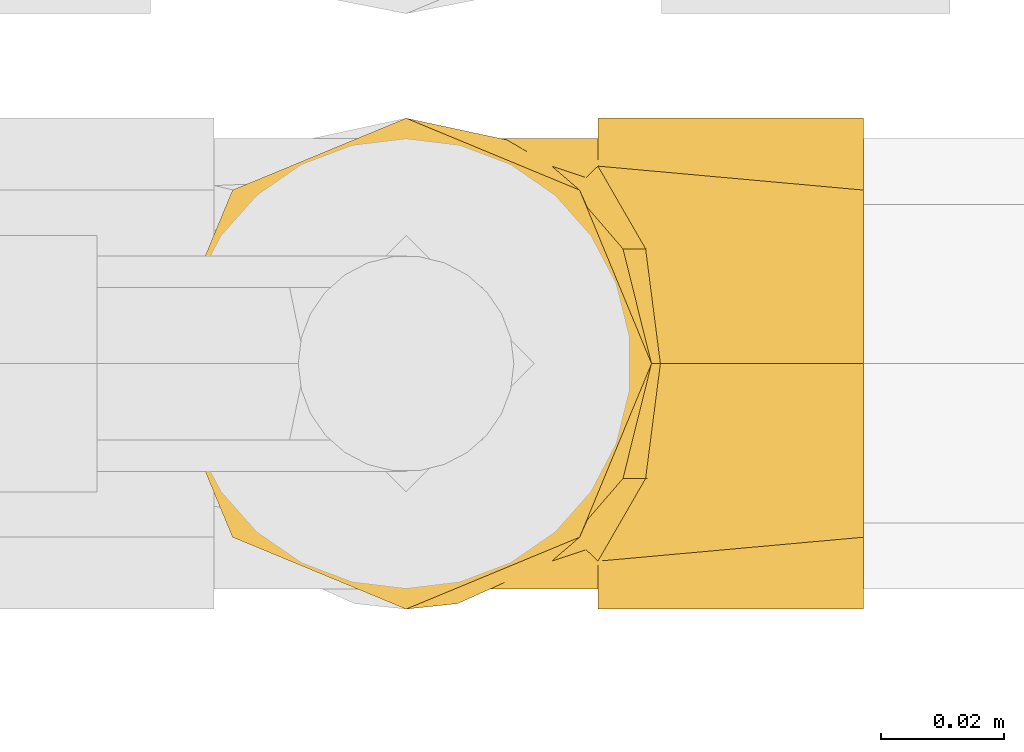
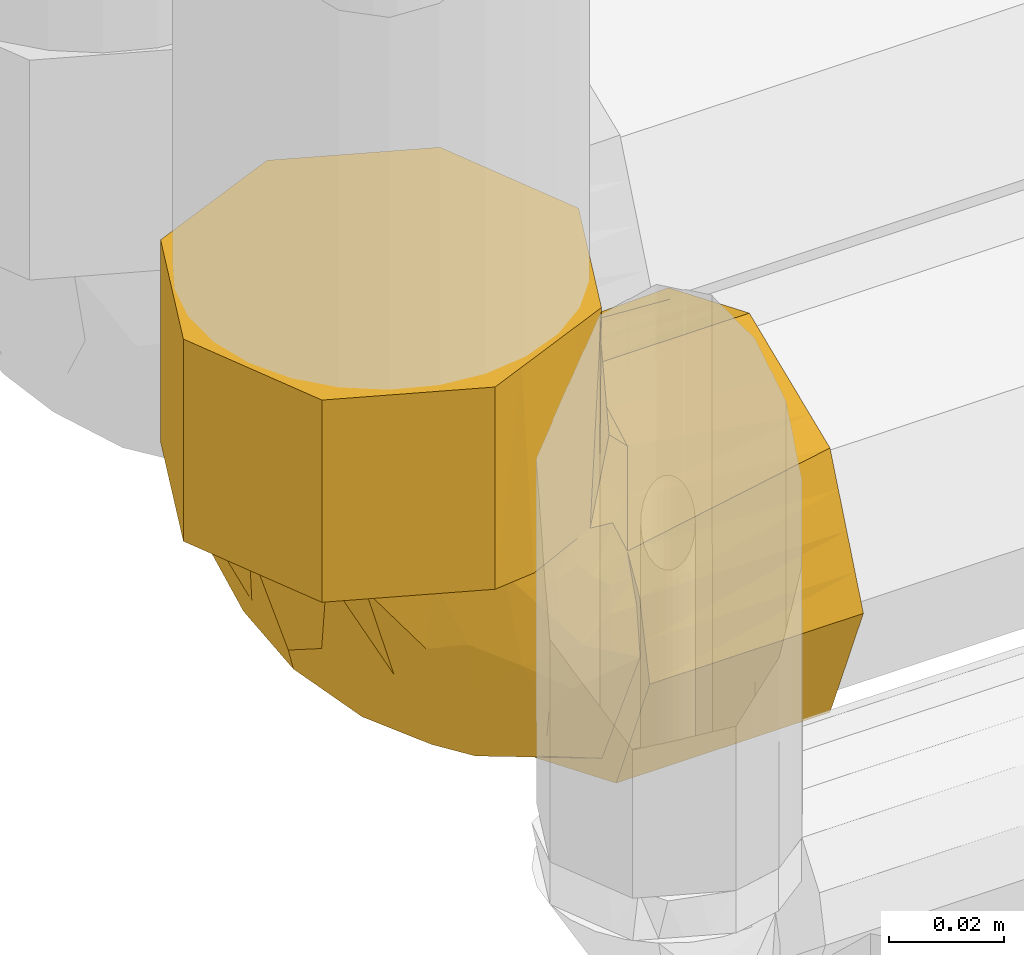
# One storey, part 179 of 652: 1 covering.
"""IFC2X3 building model written with IfcOpenShell, lengths in millimetres."""

from ifc_helpers import new_model, entity, si_unit, converted_unit, direction, frame, origin, place, context, subcontext, project, spatial, faceted_brep, material, type_object, element, save


model = new_model("IFC2X3")

# Units and contexts
model_context = context("Model", 3, precision=0.01, world=frame((0.0, 0.0, 308426.39999999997)), true_north=direction((6.123233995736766e-17, 1.0)))
plan_context = context("Plan", 3, precision=0.01, world=frame((0.0, 0.0, 308426.39999999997)), true_north=direction((6.123233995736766e-17, 1.0)))
body_context = subcontext(model_context, "Body", "Model", "MODEL_VIEW")
ifc_project = project(units=[si_unit("LENGTHUNIT", "METRE", prefix="MILLI"), si_unit("AREAUNIT", "SQUARE_METRE"), si_unit("VOLUMEUNIT", "CUBIC_METRE"), converted_unit("PLANEANGLEUNIT", "DEGREE", entity("IfcPlaneAngleMeasure", 0.017453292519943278), si_unit("PLANEANGLEUNIT", "RADIAN"), dimensions=[0, 0, 0, 0, 0, 0, 0])], contexts=[model_context, plan_context])

# Site, building, storey
site_placement = place(None, origin())
site = spatial("IfcSite", under=ifc_project, at=site_placement, Name="Default", CompositionType="ELEMENT")
building_placement = place(site_placement, origin())
building = spatial("IfcBuilding", under=site, at=building_placement, CompositionType="ELEMENT")
storey_placement = place(building_placement, frame((0.0, 0.0, 1730.6999999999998)))
storey = spatial("IfcBuildingStorey", under=building, at=storey_placement, Name="EG_Produktion_FFB", CompositionType="ELEMENT", Elevation=1730.6999999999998)

# Covering
ifc_material = material(Name="Dämmung - Armaflex-Schlauch")
covering_type = type_object("IfcCoveringType", Name="Rohrdämmung außen:Armaflex-Schlauch", PredefinedType="INSULATION")
covering_placement = place(storey_placement, frame((69458.64672776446, 40733.64672776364, 2639.0371746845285)))
element("IfcCovering", 1, at=covering_placement, inside=storey, type_object=covering_type, material=ifc_material, Name="Rohrdämmung außen:Armaflex-Schlauch", ObjectType="Rohrdämmung außen:Armaflex-Schlauch", PredefinedType="INSULATION", context=body_context, shape_type="Brep", body=[
    faceted_brep([(72.4317722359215, 6.083537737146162, -60.14407617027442), (72.43177223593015, 5.617026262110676, -64.13185283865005), (72.4317722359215, 4.890772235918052, -70.33992920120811), (72.4317722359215, 8.3318644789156, -77.97579246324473), (72.43177223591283, 11.772956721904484, -85.61165572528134), (72.4317722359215, 14.99997398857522, -92.77248166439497), (72.4317722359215, 18.22699125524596, -99.93330760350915), (72.43177223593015, 29.790131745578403, -104.18429126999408), (72.4317722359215, 41.35327223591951, -108.43527493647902), (72.43177223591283, 48.56469745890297, -104.78880055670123), (72.4317722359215, 55.776122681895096, -101.14232617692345), (72.43177223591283, 62.98754790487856, -97.49585179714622), (72.4317722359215, 70.19897312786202, -93.84937741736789), (72.4317722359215, 72.58148097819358, -86.49570507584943), (72.43177223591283, 75.19862660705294, -78.41781713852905), (72.4317722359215, 77.81577223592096, -70.33992920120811), (72.4317722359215, 77.08951820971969, -64.13185283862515), (72.4317722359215, 76.62300673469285, -60.14407617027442), (72.4317722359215, 74.98470757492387, -55.312279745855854), (72.4317722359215, 73.34640841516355, -50.4804833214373), (72.4317722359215, 76.78343970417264, -58.09788865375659), (72.4317722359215, 80.22047099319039, -65.71529398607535), (72.4317722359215, 81.11127223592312, -74.08425000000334), (72.43177223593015, 77.7993156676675, -82.08002046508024), (72.4317722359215, 75.28884793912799, -88.14082570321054), (72.4317722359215, 72.37763579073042, -95.16911355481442), (72.4317722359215, 69.46642364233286, -102.1974014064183), (72.4317722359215, 62.43813579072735, -105.10861355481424), (72.4317722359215, 55.409847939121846, -108.01982570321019), (72.4317722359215, 48.38156008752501, -110.93103785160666), (72.4317722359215, 41.35327223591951, -113.84225000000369), (72.4317722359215, 33.35750170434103, -110.53029340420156), (72.4317722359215, 27.29669653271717, -108.01982570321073), (72.4317722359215, 20.26840868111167, -105.10861355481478), (72.4317722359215, 13.240120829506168, -102.1974014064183), (72.4317722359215, 10.3289086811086, -95.16911355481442), (72.4317722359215, 7.417696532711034, -88.14082570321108), (72.43177223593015, 4.907228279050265, -82.08001919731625), (72.4317722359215, 1.5952722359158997, -74.08425000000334), (72.4317722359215, 3.3544632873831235, -65.90823846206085), (72.4317722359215, 5.113654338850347, -57.73222692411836), (72.4317722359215, 9.36013605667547, -50.4804833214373), (72.4317722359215, 7.721836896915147, -55.312279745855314), (115.43752223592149, 69.46642364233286, -45.971098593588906), (115.43752223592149, 62.43813579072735, -43.059886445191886), (115.43752223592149, 55.409847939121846, -40.14867429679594), (115.43752223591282, 49.349042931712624, -37.638206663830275), (115.43752223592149, 41.35327223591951, -34.32625000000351), (115.43752223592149, 33.357503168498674, -37.63820598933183), (115.43752223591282, 27.296696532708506, -40.14867429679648), (115.43752223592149, 20.26840868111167, -43.059886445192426), (115.43752223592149, 13.240120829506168, -45.971098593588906), (115.43752223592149, 10.3289086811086, -52.99938644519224), (115.43752223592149, 7.417696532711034, -60.02767429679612), (115.43752223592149, 4.506484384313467, -67.05596214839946), (115.43752223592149, 1.5952722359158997, -74.08425000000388), (115.43752223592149, 4.506484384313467, -81.11253785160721), (115.43752223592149, 7.417696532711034, -88.14082570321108), (115.43752223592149, 10.3289086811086, -95.16911355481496), (115.43752223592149, 13.240120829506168, -102.1974014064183), (115.43752223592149, 20.26840868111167, -105.10861355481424), (115.43752223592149, 27.29669653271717, -108.01982570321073), (115.43752223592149, 34.32498438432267, -110.93103785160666), (115.43752223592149, 41.35327223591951, -113.84225000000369), (115.43752223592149, 48.38156008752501, -110.93103785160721), (115.43752223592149, 55.409847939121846, -108.01982570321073), (115.43752223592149, 62.43813579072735, -105.10861355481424), (115.43752223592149, 69.46642364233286, -102.1974014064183), (115.43752223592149, 74.48735878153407, -90.07579169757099), (115.43752223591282, 77.7993155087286, -82.08002084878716), (115.43752223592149, 81.11127223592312, -74.08425000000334), (115.43752223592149, 78.20006008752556, -67.05596214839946), (115.43752223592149, 75.28884793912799, -60.02767429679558), (115.43752223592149, 72.37763579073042, -52.9993864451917), (76.2943830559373, 66.64936056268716, -44.712689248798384), (82.55017689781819, 41.35327223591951, -34.32625000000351), (81.35358538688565, 50.65279247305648, -36.63557258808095), (80.15699387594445, 59.952312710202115, -38.94489517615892), (80.75528963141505, 55.3025525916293, -37.790233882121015), (76.2943830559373, 16.057183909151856, -44.712689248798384), (81.35358538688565, 32.05375199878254, -36.63557258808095), (80.15699387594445, 22.754231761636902, -38.94489517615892), (81.9957964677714, 37.04480775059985, -35.39615835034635), (41.35327223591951, 1.5952722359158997, -43.0057500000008), (33.35750183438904, 4.907228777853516, -43.00575000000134), (27.29669653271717, 7.417696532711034, -43.0057500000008), (20.26840868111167, 10.3289086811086, -43.0057500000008), (13.240120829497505, 13.240120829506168, -43.0057500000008), (10.3289086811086, 20.26840868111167, -43.00575000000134), (7.417696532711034, 27.29669653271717, -43.0057500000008), (4.907228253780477, 33.357503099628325, -43.00575000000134), (1.5952722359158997, 41.35327223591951, -43.0057500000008), (4.9072286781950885, 49.34904239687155, -43.0057500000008), (7.417696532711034, 55.409847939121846, -43.0057500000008), (10.3289086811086, 62.43813579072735, -43.0057500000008), (13.240120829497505, 69.46642364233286, -43.0057500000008), (20.26840868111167, 72.37763579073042, -43.0057500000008), (27.29669653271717, 75.28884793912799, -43.0057500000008), (34.32498438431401, 78.20006008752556, -43.0057500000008), (41.35327223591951, 81.11127223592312, -43.0057500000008), (49.52928377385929, 79.3520811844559, -43.0057500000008), (57.70529531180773, 77.59289013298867, -43.0057500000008), (64.95703891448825, 73.34640841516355, -43.0057500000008), (60.125242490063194, 74.98470757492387, -43.0057500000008), (55.2934460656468, 76.62300673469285, -43.0057500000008), (51.30567010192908, 77.08951812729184, -43.00575000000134), (48.20163156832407, 77.45264518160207, -43.0057500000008), (45.09759303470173, 77.81577223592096, -43.0057500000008), (37.69714258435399, 74.47922639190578, -43.0057500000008), (30.296692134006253, 71.14268054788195, -43.0057500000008), (22.89624168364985, 67.80613470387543, -43.0057500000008), (15.495791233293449, 64.4695888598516, -43.0057500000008), (13.372405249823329, 58.69050970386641, -43.0057500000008), (11.249019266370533, 52.91143054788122, -43.0057500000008), (7.002247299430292, 41.35327223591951, -43.0057500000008), (10.651622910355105, 34.139683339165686, -43.00575000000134), (14.30099852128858, 26.926094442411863, -43.00575000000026), (17.95037413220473, 19.712505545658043, -43.0057500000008), (21.599749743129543, 12.498916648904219, -43.0057500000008), (27.474210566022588, 10.596880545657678, -43.0057500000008), (33.34867138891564, 8.694844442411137, -43.0057500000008), (45.09759303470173, 4.890772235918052, -43.0057500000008), (48.201631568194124, 5.253899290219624, -43.00575000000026), (51.30567010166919, 5.617026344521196, -43.00575000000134), (55.2934460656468, 6.083537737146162, -43.0057500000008), (60.125242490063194, 7.721836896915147, -43.0057500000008), (64.95703891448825, 9.36013605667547, -43.0057500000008), (57.3396335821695, 5.923104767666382, -43.0057500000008), (49.722228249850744, 2.486073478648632, -43.0057500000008), (34.32498438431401, 78.20006008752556, 0.0), (27.296696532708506, 75.28884793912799, 0.0), (20.26840868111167, 72.37763579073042, 0.0), (13.240120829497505, 69.46642364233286, 0.0), (8.21918556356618, 57.34481362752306, 0.0), (4.90722889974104, 49.349042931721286, 0.0), (1.5952722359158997, 41.35327223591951, 0.0), (4.506484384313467, 34.32498438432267, 0.0), (7.417696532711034, 27.29669653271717, 0.0), (10.3289086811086, 20.26840868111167, 0.0), (13.240120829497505, 13.240120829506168, 0.0), (20.26840868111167, 10.3289086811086, 0.0), (27.29669653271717, 7.417696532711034, 0.0), (34.32498438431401, 4.506484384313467, 0.0), (41.35327223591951, 1.5952722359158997, 0.0), (48.38156008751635, 4.506484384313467, 0.0), (55.409847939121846, 7.417696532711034, 0.0), (62.43813579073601, 10.3289086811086, 0.0), (69.46642364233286, 13.240120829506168, 0.0), (72.37763579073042, 20.26840868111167, 0.0), (75.28884793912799, 27.29669653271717, 0.0), (77.79931550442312, 33.35750137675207, 0.0), (81.11127223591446, 41.35327223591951, 0.0), (77.79931623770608, 49.34904132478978, 0.0), (75.28884793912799, 55.409847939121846, 0.0), (72.37763579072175, 62.43813579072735, 0.0), (69.46642364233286, 69.46642364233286, 0.0), (62.43813579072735, 72.37763579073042, 0.0), (55.409847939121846, 75.28884793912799, 0.0), (49.34904308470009, 77.7993155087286, 0.0), (41.35327223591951, 81.11127223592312, 0.0), (81.11127223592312, 41.35327223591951, -32.88734533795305), (78.80194964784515, 50.65279247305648, -34.08393684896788), (76.49262705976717, 59.95231271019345, -35.28052835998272), (78.97145557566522, 49.97020104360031, -33.99610617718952), (70.72483298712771, 66.6493605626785, -39.14313917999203), (70.72483298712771, 16.057183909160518, -39.14313917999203), (78.80194964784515, 32.05375199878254, -34.08393684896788), (76.49262705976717, 22.754231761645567, -35.28052835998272), (78.97145557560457, 32.736343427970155, -33.99610617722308), (80.04136390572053, 37.04480783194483, -33.44172575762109), (28.191105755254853, 70.58224481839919, -58.166290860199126), (56.173355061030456, 70.83707710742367, -86.24367512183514), (50.64377400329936, 74.32798861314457, -75.43570574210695), (60.9929039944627, 77.81577223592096, -63.77170858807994), (57.90061631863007, 77.00215070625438, -71.00962303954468), (45.897858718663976, 76.88875438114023, -60.33082901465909), (36.82001052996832, 68.42118911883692, -74.69227230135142), (51.80207039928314, 65.41959260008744, -90.57284197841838), (23.73842277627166, 41.35327223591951, -77.92193606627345), (18.34308673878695, 49.419286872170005, -68.63591410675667), (34.517692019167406, 49.772731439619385, -87.88495600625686), (60.25843487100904, 41.35327223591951, -100.80694021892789), (53.7329200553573, 50.77782717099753, -100.52515800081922), (33.524488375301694, 62.1795598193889, -79.21479866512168), (46.92212877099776, 77.81577223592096, -45.38936071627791), (48.746664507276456, 77.81577223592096, -47.77297143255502), (52.395735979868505, 77.81577223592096, -52.54019286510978), (56.69431998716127, 77.81577223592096, -58.15595072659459), (23.185833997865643, 65.51319346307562, -60.49415737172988), (44.192898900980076, 59.20066225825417, -90.8781652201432), (58.02641308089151, 60.21657287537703, -98.10654117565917), (22.770111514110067, 58.18811212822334, -69.60139271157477), (30.82495311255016, 55.84987819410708, -81.4946354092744), (15.370335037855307, 41.35327223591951, -60.463843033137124), (14.815761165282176, 41.35327223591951, -59.306852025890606), (48.08509750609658, 41.35327223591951, -93.17860550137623), (42.12089419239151, 41.35327223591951, -89.44118018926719), (35.91176014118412, 41.35327223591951, -85.55027078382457), (14.93671691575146, 55.74445137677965, -57.68461622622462), (36.83398515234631, 73.7993394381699, -62.34563514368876), (57.276333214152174, 41.35327223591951, -98.93822756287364), (67.17975226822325, 77.81577223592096, -67.32420901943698), (66.82609985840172, 77.16648559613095, -59.54771910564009), (67.53281751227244, 75.95462844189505, -54.28952280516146), (81.80380630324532, 41.35327223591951, -33.633715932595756), (63.97836554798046, 76.0357200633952, -51.459156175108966), (70.52863875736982, 71.49570768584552, -44.90888377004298), (61.14799970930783, 75.95462822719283, -47.90470403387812), (55.91882115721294, 77.15152320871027, -48.51664173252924), (66.82609985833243, 5.540058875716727, -59.54771910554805), (67.17975226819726, 4.890772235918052, -67.3242090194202), (70.52863885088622, 11.210837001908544, -44.90888341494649), (63.97836630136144, 6.670824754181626, -51.459155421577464), (67.53281753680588, 6.7519160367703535, -54.28952279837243), (56.69431998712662, 4.890772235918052, -58.15595072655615), (61.14799971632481, 6.7519162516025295, -47.904704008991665), (55.9188211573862, 5.555021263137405, -48.51664173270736), (48.74666450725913, 4.890772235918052, -47.77297143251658), (60.9929039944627, 4.890772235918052, -63.7717085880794), (46.92212877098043, 4.890772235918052, -45.38936071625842), (52.395735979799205, 4.890772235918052, -52.54019286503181), (55.825659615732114, 7.90055709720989, -77.88884430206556), (57.28959429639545, 11.144292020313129, -85.68390575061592), (39.02450620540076, 6.907352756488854, -57.202126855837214), (32.063467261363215, 31.821832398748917, -85.21783817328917), (35.5666121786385, 16.763579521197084, -76.99963686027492), (40.99370372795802, 9.117077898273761, -68.28685011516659), (28.53498924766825, 14.598856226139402, -64.58632217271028), (49.338891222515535, 5.892051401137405, -64.72447259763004), (59.44894022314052, 5.886693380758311, -73.03938972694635), (47.627260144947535, 15.338625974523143, -85.6554499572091), (28.791268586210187, 22.521459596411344, -75.83338581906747), (17.084732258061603, 31.617498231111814, -65.65295551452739), (18.64017595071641, 22.69544496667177, -60.45142062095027), (32.102457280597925, 9.61944594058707, -57.306708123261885), (50.634728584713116, 24.56861790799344, -95.65270419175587), (40.67615020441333, 21.067876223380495, -86.33050767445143), (59.4422784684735, 16.734184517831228, -94.01862068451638), (46.78958221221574, 33.08278710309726, -97.03201021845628)], [[[0, 1, 2, 3, 4, 5, 6, 7, 8, 9, 10, 11, 12, 13, 14, 15, 16, 17, 18, 19, 20, 21, 22, 23, 24, 25, 26, 27, 28, 29, 30, 31, 32, 33, 34, 35, 36, 37, 38, 39, 40, 41, 42]], [[43, 44, 45, 46, 47, 48, 49, 50, 51, 52, 53, 54, 55, 56, 57, 58, 59, 60, 61, 62, 63, 64, 65, 66, 67, 68, 69, 70, 71, 72, 73]], [[44, 43, 74]], [[75, 47, 46]], [[76, 75, 46]], [[45, 77, 78, 76]], [[44, 74, 77]], [[72, 20, 73]], [[71, 21, 72]], [[43, 19, 74]], [[77, 45, 44]], [[72, 21, 20]], [[71, 22, 21]], [[45, 76, 46]], [[71, 70, 22]], [[73, 20, 19]], [[19, 43, 73]], [[23, 22, 70, 69, 68, 67, 26, 25, 24]], [[26, 67, 66, 65, 64, 63, 30, 29, 28, 27]], [[38, 37, 36, 35, 34, 59, 58, 57, 56, 55]], [[30, 63, 62, 61, 60, 59, 34, 33, 32, 31]], [[53, 40, 39]], [[50, 79, 51]], [[39, 54, 53]], [[41, 52, 51]], [[40, 52, 41]], [[80, 49, 48]], [[49, 80, 81]], [[55, 54, 38]], [[48, 75, 82, 80]], [[38, 54, 39]], [[79, 50, 81]], [[52, 40, 53]], [[48, 47, 75]], [[50, 49, 81]], [[79, 41, 51]], [[83, 84, 85, 86, 87, 88, 89, 90, 91, 92, 93, 94, 95, 96, 97, 98, 99, 100, 101, 102, 103, 104, 105, 106, 107, 108, 109, 110, 111, 112, 113, 114, 115, 116, 117, 118, 119, 120, 121, 122, 123, 124, 125, 126, 127, 128]], [[129, 130, 131, 132, 133, 134, 135, 136, 137, 138, 139, 140, 141, 142, 143, 144, 145, 146, 147, 148, 149, 150, 151, 152, 153, 154, 155, 156, 157, 158, 159]], [[135, 134, 133, 132, 95, 94, 93, 92, 91]], [[95, 132, 131, 130, 129, 159, 99, 98, 97, 96]], [[159, 158, 157, 100]], [[101, 156, 102]], [[99, 159, 100]], [[101, 100, 157]], [[152, 151, 160]], [[102, 156, 155]], [[153, 161, 162]], [[161, 153, 152]], [[152, 160, 163, 161]], [[154, 164, 155]], [[164, 154, 162]], [[156, 101, 157]], [[154, 153, 162]], [[164, 102, 155]], [[148, 147, 165]], [[149, 166, 150]], [[166, 149, 167]], [[160, 151, 150]], [[148, 165, 167]], [[145, 127, 146]], [[144, 128, 145]], [[147, 126, 165]], [[167, 149, 148]], [[145, 128, 127]], [[144, 83, 128]], [[150, 166, 168, 169, 160]], [[144, 143, 83]], [[146, 127, 126]], [[126, 147, 146]], [[91, 90, 89, 88, 87, 139, 138, 137, 136, 135]], [[141, 140, 139, 87, 86, 85, 84, 83, 143, 142]], [[109, 170, 110]], [[13, 171, 172]], [[14, 13, 172]], [[173, 174, 175]], [[176, 171, 177]], [[15, 14, 174]], [[178, 179, 180]], [[9, 181, 182]], [[172, 175, 174]], [[13, 12, 171]], [[12, 11, 177]], [[176, 177, 183]], [[175, 107, 184, 185, 186, 187, 173]], [[188, 170, 176]], [[176, 172, 171]], [[189, 190, 182]], [[11, 10, 190]], [[177, 11, 190]], [[170, 188, 110]], [[191, 183, 192]], [[179, 178, 193, 194]], [[182, 190, 10]], [[189, 182, 180]], [[177, 190, 189]], [[182, 10, 9]], [[182, 195, 180]], [[177, 189, 183]], [[177, 171, 12]], [[180, 195, 196, 197, 178]], [[113, 179, 194]], [[112, 111, 198, 113]], [[198, 111, 188]], [[194, 114, 113]], [[179, 191, 192]], [[199, 175, 172]], [[199, 108, 175]], [[172, 176, 199]], [[188, 111, 110]], [[199, 170, 109]], [[183, 188, 176]], [[108, 199, 109]], [[188, 191, 198]], [[108, 107, 175]], [[176, 170, 199]], [[192, 189, 180]], [[188, 183, 191]], [[189, 192, 183]], [[179, 192, 180]], [[181, 9, 8]], [[182, 181, 200, 195]], [[191, 179, 198]], [[179, 113, 198]], [[174, 173, 201, 15]], [[172, 174, 14]], [[173, 202, 201]], [[173, 187, 203]], [[18, 203, 19]], [[201, 17, 16, 15]], [[204, 76, 163]], [[74, 164, 162, 77]], [[163, 76, 78, 77, 162, 161]], [[205, 102, 206]], [[206, 164, 74]], [[106, 105, 104, 185, 184, 107]], [[205, 207, 102]], [[186, 185, 208, 187]], [[204, 75, 76]], [[163, 160, 204]], [[205, 206, 19]], [[164, 206, 102]], [[203, 205, 19]], [[19, 206, 74]], [[201, 202, 17]], [[17, 202, 18]], [[203, 202, 173]], [[18, 202, 203]], [[102, 207, 103]], [[103, 208, 104]], [[207, 205, 187]], [[208, 103, 207]], [[208, 185, 104]], [[187, 208, 207]], [[203, 187, 205]], [[204, 160, 169]], [[209, 210, 0]], [[169, 168, 166, 167, 81, 80, 82]], [[41, 211, 212]], [[1, 0, 210, 2]], [[213, 212, 214]], [[204, 169, 82]], [[79, 165, 211]], [[126, 125, 215]], [[212, 211, 126]], [[204, 82, 75]], [[167, 165, 79, 81]], [[216, 124, 217]], [[218, 209, 213]], [[122, 121, 219, 217, 124, 123]], [[41, 79, 211]], [[211, 165, 126]], [[209, 0, 42]], [[125, 124, 216]], [[126, 215, 212]], [[125, 216, 215]], [[220, 214, 216, 217]], [[213, 42, 41]], [[212, 213, 41]], [[210, 209, 218]], [[214, 212, 215]], [[209, 42, 213]], [[215, 216, 214]], [[218, 213, 214]], [[4, 221, 222]], [[223, 121, 120]], [[224, 178, 197, 196]], [[225, 226, 227]], [[228, 226, 221]], [[229, 218, 228]], [[222, 226, 230]], [[231, 232, 224]], [[3, 229, 221]], [[233, 232, 231]], [[234, 223, 120]], [[229, 2, 210, 218]], [[224, 235, 236]], [[4, 3, 221]], [[228, 218, 214, 220, 217, 219, 121]], [[237, 222, 230]], [[6, 235, 7]], [[235, 6, 237]], [[238, 200, 7]], [[228, 223, 226]], [[224, 238, 235]], [[234, 226, 223]], [[227, 117, 233]], [[193, 232, 115]], [[224, 232, 178]], [[115, 114, 194, 193]], [[235, 237, 236]], [[238, 224, 196]], [[226, 222, 221]], [[222, 237, 5]], [[5, 237, 6]], [[5, 4, 222]], [[237, 230, 236]], [[7, 200, 181, 8]], [[7, 235, 238]], [[238, 196, 195, 200]], [[227, 118, 117]], [[193, 178, 232]], [[231, 236, 225]], [[233, 117, 116]], [[232, 233, 116]], [[227, 233, 231]], [[229, 3, 2]], [[228, 221, 229]], [[121, 223, 228]], [[119, 118, 234, 120]], [[234, 118, 227]], [[227, 226, 234]], [[232, 116, 115]], [[225, 236, 230]], [[224, 236, 231]], [[226, 225, 230]], [[231, 225, 227]]]),
])

save(model, "model.ifc")
